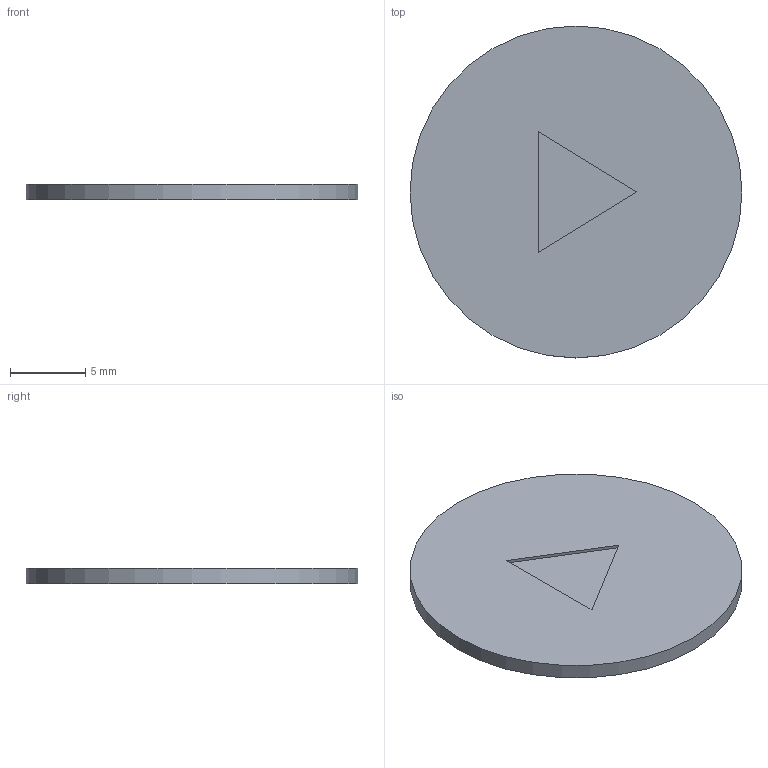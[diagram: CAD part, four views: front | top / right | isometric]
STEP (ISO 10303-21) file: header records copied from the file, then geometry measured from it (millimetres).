
FILE_DESCRIPTION(('Open CASCADE Model'),'2;1');
FILE_NAME('Open CASCADE Shape Model','2026-09-08T13:32:06',('Author'),( 'Open CASCADE'),'Open CASCADE STEP processor 7.7','Open CASCADE 7.7' ,'Unknown');
FILE_SCHEMA(('AUTOMOTIVE_DESIGN { 1 0 10303 214 1 1 1 1 }'));
Length unit declared in the file: millimetre
Products named in the file (1): Open CASCADE STEP translator 7.7 10
Bounding box: 22 x 22 x 1 mm (x, y, z)
Volume: 374.9 mm3; surface area: 834 mm2
Topology: 1 solids, 1 shells, 7 faces, 12 edges, 8 vertices
Faces by surface type: plane 6, cylinder 1
Full cylindrical faces by diameter (mm): 22 x1
Entity records: 334 total; most frequent: DIRECTION 54, CARTESIAN_POINT 52, LINE 32, VECTOR 32, ORIENTED_EDGE 24, PCURVE 24, DEFINITIONAL_REPRESENTATION 24, EDGE_CURVE 12
